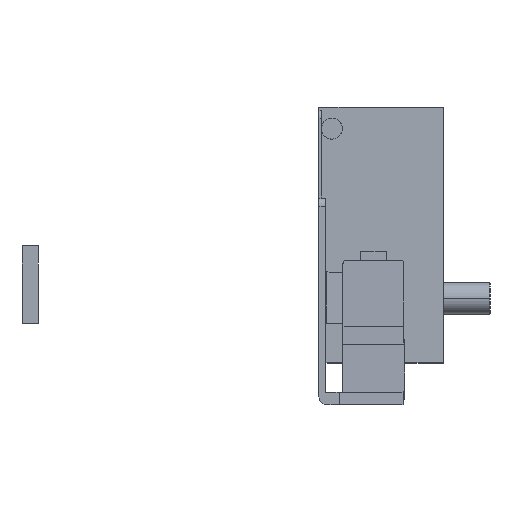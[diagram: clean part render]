
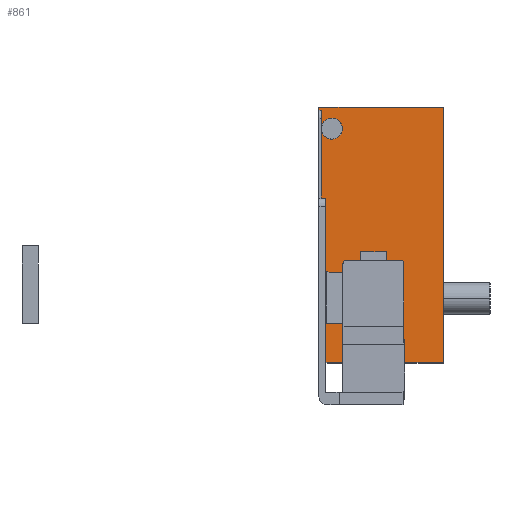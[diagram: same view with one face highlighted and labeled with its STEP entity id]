
A CAD part, front view. The second image highlights one B-rep face of the part: STEP entity #861.
In plain terms, the highlighted planar face has unit normal (0, -1, 0.007).
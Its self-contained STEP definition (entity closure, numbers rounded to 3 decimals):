
#53 = EDGE_LOOP ( 'NONE', ( #4432, #4431, #4430, #4429, #4428, #4427, #4426, #4425, #4424, #4423, #4422, #4421, #4420, #4419 ) ) ;
#764 =( BOUNDED_CURVE ( )  B_SPLINE_CURVE ( 3, ( #4038, #4039, #4040, #4041 ),
 .UNSPECIFIED., .F., .F. ) 
 B_SPLINE_CURVE_WITH_KNOTS ( ( 4, 4 ),
 ( 3.142, 4.712 ),
 .UNSPECIFIED. ) 
 CURVE ( )  GEOMETRIC_REPRESENTATION_ITEM ( )  RATIONAL_B_SPLINE_CURVE ( ( 1., 0.805, 0.805, 1. ) ) 
 REPRESENTATION_ITEM ( '' )  );
#765 =( BOUNDED_CURVE ( )  B_SPLINE_CURVE ( 3, ( #4042, #4043, #4044, #4045 ),
 .UNSPECIFIED., .F., .T. ) 
 B_SPLINE_CURVE_WITH_KNOTS ( ( 4, 4 ),
 ( 4.712, 6.283 ),
 .UNSPECIFIED. ) 
 CURVE ( )  GEOMETRIC_REPRESENTATION_ITEM ( )  RATIONAL_B_SPLINE_CURVE ( ( 1., 0.805, 0.805, 1. ) ) 
 REPRESENTATION_ITEM ( '' )  );
#861 = ADVANCED_FACE ( 'NONE', ( #2208 ), #4601, .T. ) ;
#1219 = EDGE_CURVE ( 'NONE', #5317, #5106, #2378, .T. ) ;
#1317 = EDGE_CURVE ( 'NONE', #5090, #5257, #2535, .T. ) ;
#1370 = EDGE_CURVE ( 'NONE', #5321, #5251, #2631, .T. ) ;
#1376 = EDGE_CURVE ( 'NONE', #4977, #5255, #2640, .T. ) ;
#1599 = EDGE_CURVE ( 'NONE', #5090, #5251, #764, .T. ) ;
#1600 = EDGE_CURVE ( 'NONE', #5255, #5257, #765, .T. ) ;
#1602 = EDGE_CURVE ( 'NONE', #5331, #5333, #3013, .T. ) ;
#1603 = EDGE_CURVE ( 'NONE', #5333, #5338, #3015, .T. ) ;
#1604 = EDGE_CURVE ( 'NONE', #5340, #5338, #3017, .T. ) ;
#1605 = EDGE_CURVE ( 'NONE', #5340, #4977, #3019, .T. ) ;
#1606 = EDGE_CURVE ( 'NONE', #5321, #5317, #3021, .T. ) ;
#1607 = EDGE_CURVE ( 'NONE', #5106, #4892, #3023, .T. ) ;
#1608 = EDGE_CURVE ( 'NONE', #4896, #4892, #3025, .T. ) ;
#1609 = EDGE_CURVE ( 'NONE', #5331, #4896, #3027, .T. ) ;
#1725 = AXIS2_PLACEMENT_3D ( 'NONE', #4600, #4598, #4597 ) ;
#2208 = FACE_OUTER_BOUND ( 'NONE', #53, .T. ) ;
#2378 = LINE ( 'NONE', #3151, #2379 ) ;
#2379 = VECTOR ( 'NONE', #3152, 1000. ) ;
#2535 = LINE ( 'NONE', #3386, #2536 ) ;
#2536 = VECTOR ( 'NONE', #3387, 1000. ) ;
#2631 = LINE ( 'NONE', #3502, #2632 ) ;
#2632 = VECTOR ( 'NONE', #3503, 1000. ) ;
#2640 = LINE ( 'NONE', #3516, #2642 ) ;
#2642 = VECTOR ( 'NONE', #3517, 1000. ) ;
#3013 = LINE ( 'NONE', #4048, #3014 ) ;
#3014 = VECTOR ( 'NONE', #4049, 1000. ) ;
#3015 = LINE ( 'NONE', #4050, #3016 ) ;
#3016 = VECTOR ( 'NONE', #4051, 1000. ) ;
#3017 = LINE ( 'NONE', #4052, #3018 ) ;
#3018 = VECTOR ( 'NONE', #4053, 1000. ) ;
#3019 = LINE ( 'NONE', #4054, #3020 ) ;
#3020 = VECTOR ( 'NONE', #4055, 1000. ) ;
#3021 = LINE ( 'NONE', #4056, #3022 ) ;
#3022 = VECTOR ( 'NONE', #4057, 1000. ) ;
#3023 = LINE ( 'NONE', #4058, #3024 ) ;
#3024 = VECTOR ( 'NONE', #4059, 1000. ) ;
#3025 = LINE ( 'NONE', #4060, #3026 ) ;
#3026 = VECTOR ( 'NONE', #4061, 1000. ) ;
#3027 = LINE ( 'NONE', #4062, #3028 ) ;
#3028 = VECTOR ( 'NONE', #4063, 1000. ) ;
#3151 = CARTESIAN_POINT ( 'NONE',  ( 38.8, 420.805, -46.179 ) ) ;
#3152 = DIRECTION ( 'NONE',  ( 0., 0.007, 1. ) ) ;
#3386 = CARTESIAN_POINT ( 'NONE',  ( 26.75, 420.907, -30.992 ) ) ;
#3387 = DIRECTION ( 'NONE',  ( -1., 0., 0. ) ) ;
#3502 = CARTESIAN_POINT ( 'NONE',  ( 26.75, 421.007, -16.135 ) ) ;
#3503 = DIRECTION ( 'NONE',  ( 0., 0.007, 1. ) ) ;
#3516 = CARTESIAN_POINT ( 'NONE',  ( 7.25, 421.007, -16.135 ) ) ;
#3517 = DIRECTION ( 'NONE',  ( 0., 0.007, 1. ) ) ;
#4038 = CARTESIAN_POINT ( 'NONE',  ( 25.75, 420.907, -30.992 ) ) ;
#4039 = CARTESIAN_POINT ( 'NONE',  ( 26.336, 420.907, -30.992 ) ) ;
#4040 = CARTESIAN_POINT ( 'NONE',  ( 26.75, 420.904, -31.406 ) ) ;
#4041 = CARTESIAN_POINT ( 'NONE',  ( 26.75, 420.9, -31.992 ) ) ;
#4042 = CARTESIAN_POINT ( 'NONE',  ( 7.25, 420.9, -31.992 ) ) ;
#4043 = CARTESIAN_POINT ( 'NONE',  ( 7.25, 420.904, -31.406 ) ) ;
#4044 = CARTESIAN_POINT ( 'NONE',  ( 7.664, 420.907, -30.992 ) ) ;
#4045 = CARTESIAN_POINT ( 'NONE',  ( 8.25, 420.907, -30.992 ) ) ;
#4048 = CARTESIAN_POINT ( 'NONE',  ( 8., 420.805, -46.179 ) ) ;
#4049 = DIRECTION ( 'NONE',  ( 0., -0.007, -1. ) ) ;
#4050 = CARTESIAN_POINT ( 'NONE',  ( 2.5, 420.953, -24.18 ) ) ;
#4051 = DIRECTION ( 'NONE',  ( -1., 0., 0. ) ) ;
#4052 = CARTESIAN_POINT ( 'NONE',  ( 0., 420.805, -46.179 ) ) ;
#4053 = DIRECTION ( 'NONE',  ( 0., 0.007, 1. ) ) ;
#4054 = CARTESIAN_POINT ( 'NONE',  ( 7.25, 420.872, -36.218 ) ) ;
#4055 = DIRECTION ( 'NONE',  ( 1., 0., 0. ) ) ;
#4056 = CARTESIAN_POINT ( 'NONE',  ( 38.8, 420.872, -36.218 ) ) ;
#4057 = DIRECTION ( 'NONE',  ( 1., 0., 0. ) ) ;
#4058 = CARTESIAN_POINT ( 'NONE',  ( 38.8, 421.404, 43.176 ) ) ;
#4059 = DIRECTION ( 'NONE',  ( -1., 0., 0. ) ) ;
#4060 = CARTESIAN_POINT ( 'NONE',  ( 0., 420.805, -46.179 ) ) ;
#4061 = DIRECTION ( 'NONE',  ( 0., 0.007, 1. ) ) ;
#4062 = CARTESIAN_POINT ( 'NONE',  ( 2.5, 421.06, -8.18 ) ) ;
#4063 = DIRECTION ( 'NONE',  ( -1., 0., 0. ) ) ;
#4145 = CARTESIAN_POINT ( 'NONE',  ( 0., 421.404, 43.176 ) ) ;
#4146 = CARTESIAN_POINT ( 'NONE',  ( 0., 421.06, -8.18 ) ) ;
#4168 = CARTESIAN_POINT ( 'NONE',  ( 7.25, 420.872, -36.218 ) ) ;
#4187 = CARTESIAN_POINT ( 'NONE',  ( 25.75, 420.907, -30.992 ) ) ;
#4203 = CARTESIAN_POINT ( 'NONE',  ( 38.8, 421.404, 43.176 ) ) ;
#4419 = ORIENTED_EDGE ( 'NONE', *, *, #1609, .F. ) ;
#4420 = ORIENTED_EDGE ( 'NONE', *, *, #1608, .F. ) ;
#4421 = ORIENTED_EDGE ( 'NONE', *, *, #1607, .T. ) ;
#4422 = ORIENTED_EDGE ( 'NONE', *, *, #1219, .T. ) ;
#4423 = ORIENTED_EDGE ( 'NONE', *, *, #1606, .T. ) ;
#4424 = ORIENTED_EDGE ( 'NONE', *, *, #1370, .F. ) ;
#4425 = ORIENTED_EDGE ( 'NONE', *, *, #1599, .T. ) ;
#4426 = ORIENTED_EDGE ( 'NONE', *, *, #1317, .F. ) ;
#4427 = ORIENTED_EDGE ( 'NONE', *, *, #1600, .T. ) ;
#4428 = ORIENTED_EDGE ( 'NONE', *, *, #1376, .T. ) ;
#4429 = ORIENTED_EDGE ( 'NONE', *, *, #1605, .T. ) ;
#4430 = ORIENTED_EDGE ( 'NONE', *, *, #1604, .F. ) ;
#4431 = ORIENTED_EDGE ( 'NONE', *, *, #1603, .T. ) ;
#4432 = ORIENTED_EDGE ( 'NONE', *, *, #1602, .T. ) ;
#4597 = DIRECTION ( 'NONE',  ( 0., 0.007, 1. ) ) ;
#4598 = DIRECTION ( 'NONE',  ( 0., -1., 0.007 ) ) ;
#4600 = CARTESIAN_POINT ( 'NONE',  ( 38.8, 420.805, -46.179 ) ) ;
#4601 = PLANE ( 'NONE',  #1725 ) ;
#4740 = CARTESIAN_POINT ( 'NONE',  ( 26.75, 420.9, -31.992 ) ) ;
#4744 = CARTESIAN_POINT ( 'NONE',  ( 7.25, 420.9, -31.992 ) ) ;
#4746 = CARTESIAN_POINT ( 'NONE',  ( 8.25, 420.907, -30.992 ) ) ;
#4806 = CARTESIAN_POINT ( 'NONE',  ( 38.8, 420.872, -36.218 ) ) ;
#4810 = CARTESIAN_POINT ( 'NONE',  ( 26.75, 420.872, -36.218 ) ) ;
#4820 = CARTESIAN_POINT ( 'NONE',  ( 8., 421.06, -8.18 ) ) ;
#4822 = CARTESIAN_POINT ( 'NONE',  ( 8., 420.953, -24.18 ) ) ;
#4827 = CARTESIAN_POINT ( 'NONE',  ( 0., 420.953, -24.18 ) ) ;
#4829 = CARTESIAN_POINT ( 'NONE',  ( 0., 420.872, -36.218 ) ) ;
#4892 = VERTEX_POINT ( 'NONE', #4145 ) ;
#4896 = VERTEX_POINT ( 'NONE', #4146 ) ;
#4977 = VERTEX_POINT ( 'NONE', #4168 ) ;
#5090 = VERTEX_POINT ( 'NONE', #4187 ) ;
#5106 = VERTEX_POINT ( 'NONE', #4203 ) ;
#5251 = VERTEX_POINT ( 'NONE', #4740 ) ;
#5255 = VERTEX_POINT ( 'NONE', #4744 ) ;
#5257 = VERTEX_POINT ( 'NONE', #4746 ) ;
#5317 = VERTEX_POINT ( 'NONE', #4806 ) ;
#5321 = VERTEX_POINT ( 'NONE', #4810 ) ;
#5331 = VERTEX_POINT ( 'NONE', #4820 ) ;
#5333 = VERTEX_POINT ( 'NONE', #4822 ) ;
#5338 = VERTEX_POINT ( 'NONE', #4827 ) ;
#5340 = VERTEX_POINT ( 'NONE', #4829 ) ;
